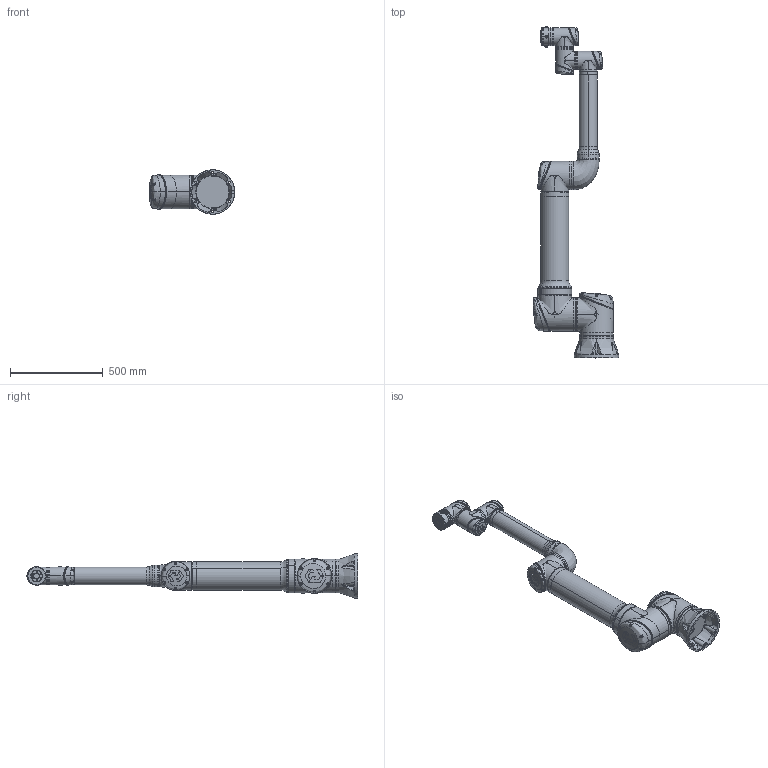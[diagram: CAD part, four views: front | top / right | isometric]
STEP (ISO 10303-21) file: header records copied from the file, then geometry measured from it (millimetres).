
FILE_DESCRIPTION (( 'STEP AP203' ), '1' );
FILE_NAME ('CS_掛极CS625F_V1.1.STEP', '2025-03-31T05:09:03', ( '' ), ( '' ), 'SwSTEP 2.0', 'SolidWorks 2017', '' );
FILE_SCHEMA (( 'CONFIG_CONTROL_DESIGN' ));
Length unit declared in the file: millimetre
Products named in the file (8): CS625F-Base; CS625F-J6; CS625F-J1; CS625F-J2_Link1_J3; CS625F-J5; CS_掛极CS625F_V1.1; CS625F-Flange; CS625F-Link2A_Link2B_J4
Assembly tree (7 placements, depth 2):
  CS_掛极CS625F_V1.1
    CS625F-Base
    CS625F-J1
    CS625F-J2_Link1_J3
    CS625F-Link2A_Link2B_J4
    CS625F-J5
    CS625F-J6
    CS625F-Flange
Bounding box: 460.8 x 1792 x 239.8 mm (x, y, z)
Volume: 3870205.1 mm3; surface area: 2093468.3 mm2
Topology: 25 solids, 101 shells, 5873 faces, 13923 edges, 8273 vertices
Faces by surface type: bspline 2687, plane 1460, cylinder 1111, cone 352, torus 147, sphere 116
Entity records: 322120 total; most frequent: CARTESIAN_POINT 207882, ORIENTED_EDGE 27292, DIRECTION 18517, EDGE_CURVE 13662, VERTEX_POINT 8257, AXIS2_PLACEMENT_3D 7697, EDGE_LOOP 6232, FACE_OUTER_BOUND 5873
